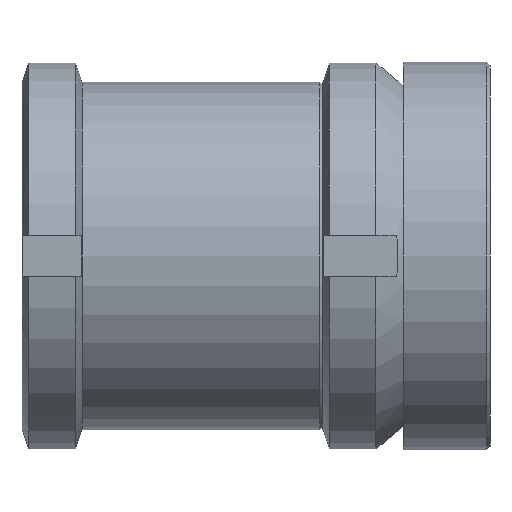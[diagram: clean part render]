
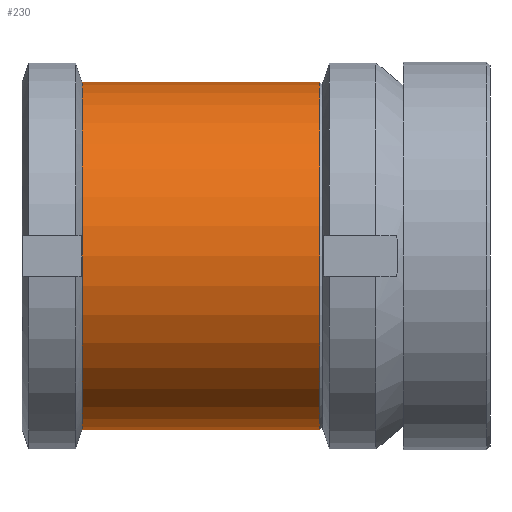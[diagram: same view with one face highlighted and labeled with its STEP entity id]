
A CAD part, front view. The second image highlights one B-rep face of the part: STEP entity #230.
In plain terms, the highlighted cylindrical face has radius 26 mm (diameter 52 mm), a full revolution.
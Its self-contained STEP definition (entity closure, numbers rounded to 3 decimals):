
#230 = ADVANCED_FACE( '', ( #326, #327 ), #328, .T. );
#326 = FACE_OUTER_BOUND( '', #481, .T. );
#327 = FACE_OUTER_BOUND( '', #482, .T. );
#328 = CYLINDRICAL_SURFACE( '', #483, 26. );
#481 = EDGE_LOOP( '', ( #761 ) );
#482 = EDGE_LOOP( '', ( #762 ) );
#483 = AXIS2_PLACEMENT_3D( '', #763, #764, #765 );
#761 = ORIENTED_EDGE( '', *, *, #1032, .F. );
#762 = ORIENTED_EDGE( '', *, *, #1066, .T. );
#763 = CARTESIAN_POINT( '', ( 0., 0., 0. ) );
#764 = DIRECTION( '', ( 0., 1., 0. ) );
#765 = DIRECTION( '', ( 0., 0., -1. ) );
#1032 = EDGE_CURVE( '', #1174, #1174, #1175, .T. );
#1066 = EDGE_CURVE( '', #1227, #1227, #1228, .T. );
#1174 = VERTEX_POINT( '', #1458 );
#1175 = CIRCLE( '', #1459, 26. );
#1227 = VERTEX_POINT( '', #1579 );
#1228 = CIRCLE( '', #1580, 26. );
#1458 = CARTESIAN_POINT( '', ( 0., 9., -26. ) );
#1459 = AXIS2_PLACEMENT_3D( '', #1795, #1796, #1797 );
#1579 = CARTESIAN_POINT( '', ( 0., 44.5, -26. ) );
#1580 = AXIS2_PLACEMENT_3D( '', #1836, #1837, #1838 );
#1795 = CARTESIAN_POINT( '', ( 0., 9., 0. ) );
#1796 = DIRECTION( '', ( 0., -1., 0. ) );
#1797 = DIRECTION( '', ( 0., 0., -1. ) );
#1836 = CARTESIAN_POINT( '', ( 0., 44.5, 0. ) );
#1837 = DIRECTION( '', ( 0., -1., 0. ) );
#1838 = DIRECTION( '', ( 0., 0., -1. ) );
